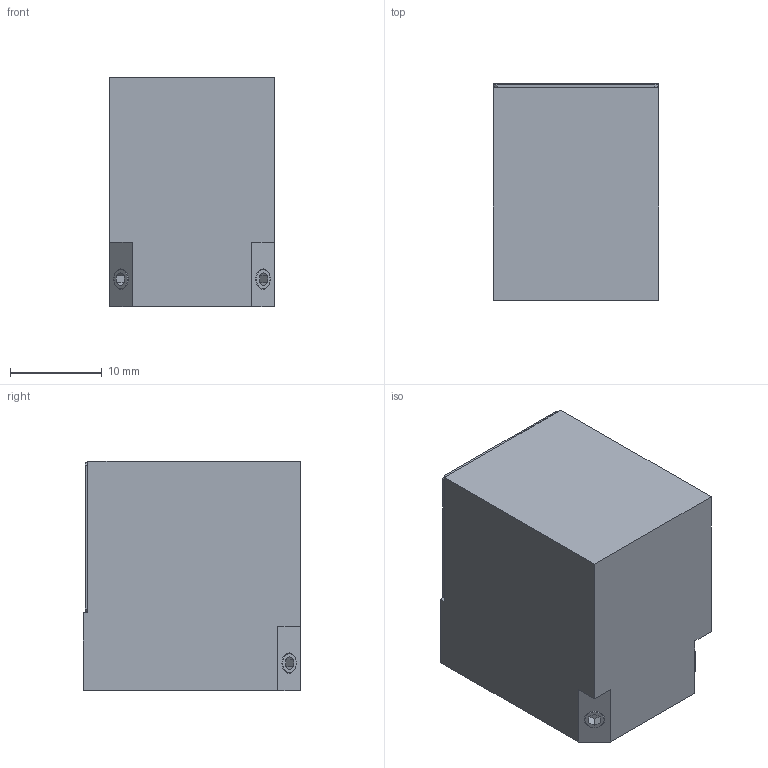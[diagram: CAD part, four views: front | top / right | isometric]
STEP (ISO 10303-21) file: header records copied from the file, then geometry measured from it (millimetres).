
FILE_DESCRIPTION (( 'STEP AP214' ), '1' );
FILE_NAME ('MML-PSV16L.STEP', '2026-02-24T02:52:32', ( '' ), ( '' ), 'SwSTEP 2.0', 'SolidWorks 2025', '' );
FILE_SCHEMA (( 'AUTOMOTIVE_DESIGN' ));
Length unit declared in the file: millimetre
Products named in the file (1): MML-PSV16L
Bounding box: 18 x 23.7 x 25 mm (x, y, z)
Volume: 7892.4 mm3; surface area: 4122.3 mm2
Topology: 1 solids, 5 shells, 121 faces, 313 edges, 207 vertices
Faces by surface type: plane 88, cylinder 25, cone 8
Entity records: 3800 total; most frequent: CARTESIAN_POINT 779, ORIENTED_EDGE 626, DIRECTION 609, EDGE_CURVE 313, LINE 231, VECTOR 231, VERTEX_POINT 207, AXIS2_PLACEMENT_3D 189
